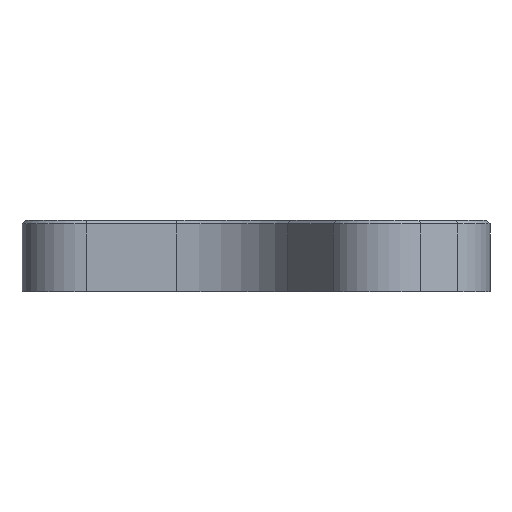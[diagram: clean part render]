
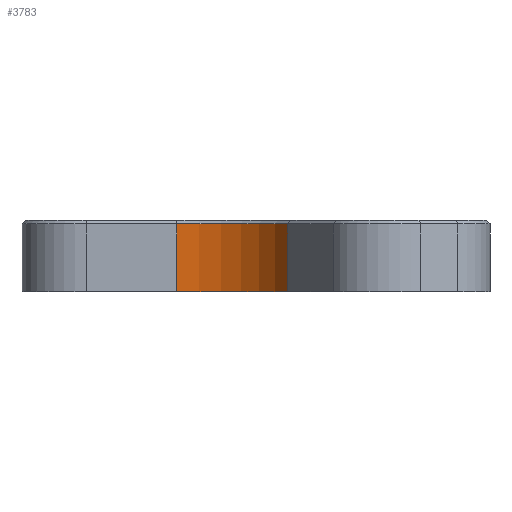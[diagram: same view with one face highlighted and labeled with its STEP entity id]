
A CAD part, left-side view. The second image highlights one B-rep face of the part: STEP entity #3783.
In plain terms, the highlighted cylindrical face has radius 18 mm (diameter 36 mm), a partial arc.
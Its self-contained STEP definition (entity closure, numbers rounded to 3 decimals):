
#9 = CARTESIAN_POINT ( 'NONE',  ( -12., 17.321, 9.5 ) ) ;
#12 = AXIS2_PLACEMENT_3D ( 'NONE', #484, #478, #470 ) ;
#39 = LINE ( 'NONE', #2739, #1150 ) ;
#312 = DIRECTION ( 'NONE',  ( 1., 0., 0. ) ) ;
#373 = CARTESIAN_POINT ( 'NONE',  ( -30., 17.321, 0. ) ) ;
#470 = DIRECTION ( 'NONE',  ( 1., 0., 0. ) ) ;
#471 = VERTEX_POINT ( 'NONE', #3104 ) ;
#478 = DIRECTION ( 'NONE',  ( 0., 0., 1. ) ) ;
#484 = CARTESIAN_POINT ( 'NONE',  ( -30., 17.321, 9.5 ) ) ;
#976 = DIRECTION ( 'NONE',  ( 0., 0., -1. ) ) ;
#1054 = ORIENTED_EDGE ( 'NONE', *, *, #1366, .F. ) ;
#1150 = VECTOR ( 'NONE', #2740, 1000. ) ;
#1366 = EDGE_CURVE ( 'NONE', #5398, #471, #39, .T. ) ;
#1559 = FACE_OUTER_BOUND ( 'NONE', #3340, .T. ) ;
#1962 = DIRECTION ( 'NONE',  ( -0.866, 0.5, 0. ) ) ;
#1994 = CARTESIAN_POINT ( 'NONE',  ( -30., 17.321, 10. ) ) ;
#2051 = DIRECTION ( 'NONE',  ( 0., 0., 1. ) ) ;
#2300 = VERTEX_POINT ( 'NONE', #9 ) ;
#2379 = VERTEX_POINT ( 'NONE', #4598 ) ;
#2620 = DIRECTION ( 'NONE',  ( 0., 0., 1. ) ) ;
#2739 = CARTESIAN_POINT ( 'NONE',  ( -21., 1.732, 10. ) ) ;
#2740 = DIRECTION ( 'NONE',  ( 0., 0., -1. ) ) ;
#2951 = CARTESIAN_POINT ( 'NONE',  ( -12., 17.321, 10. ) ) ;
#3048 = LINE ( 'NONE', #2951, #3053 ) ;
#3053 = VECTOR ( 'NONE', #976, 1000. ) ;
#3104 = CARTESIAN_POINT ( 'NONE',  ( -21., 1.732, 0. ) ) ;
#3340 = EDGE_LOOP ( 'NONE', ( #4912, #1054, #4308, #4016 ) ) ;
#3783 = ADVANCED_FACE ( 'NONE', ( #1559 ), #4831, .F. ) ;
#3821 = CIRCLE ( 'NONE', #12, 18. ) ;
#3896 = AXIS2_PLACEMENT_3D ( 'NONE', #373, #2620, #312 ) ;
#4016 = ORIENTED_EDGE ( 'NONE', *, *, #4687, .T. ) ;
#4124 = AXIS2_PLACEMENT_3D ( 'NONE', #1994, #2051, #1962 ) ;
#4283 = EDGE_CURVE ( 'NONE', #5398, #2300, #3821, .T. ) ;
#4308 = ORIENTED_EDGE ( 'NONE', *, *, #4283, .T. ) ;
#4324 = CARTESIAN_POINT ( 'NONE',  ( -21., 1.732, 9.5 ) ) ;
#4598 = CARTESIAN_POINT ( 'NONE',  ( -12., 17.321, 0. ) ) ;
#4687 = EDGE_CURVE ( 'NONE', #2300, #2379, #3048, .T. ) ;
#4831 = CYLINDRICAL_SURFACE ( 'NONE', #4124, 18. ) ;
#4912 = ORIENTED_EDGE ( 'NONE', *, *, #5005, .F. ) ;
#5005 = EDGE_CURVE ( 'NONE', #471, #2379, #5307, .T. ) ;
#5307 = CIRCLE ( 'NONE', #3896, 18. ) ;
#5398 = VERTEX_POINT ( 'NONE', #4324 ) ;
